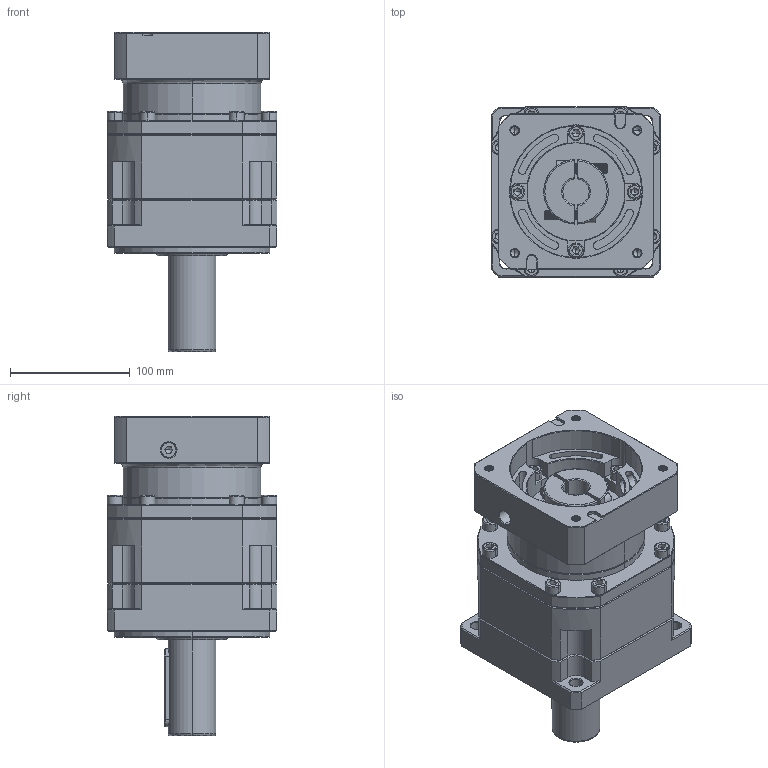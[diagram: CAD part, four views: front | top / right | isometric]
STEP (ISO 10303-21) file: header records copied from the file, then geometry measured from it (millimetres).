
FILE_DESCRIPTION (( 'STEP AP214' ), '1' );
FILE_NAME ('ZB142A-D40-L1-P2-22-110-145-M8.step', '2023-09-01T11:40:58', ( '' ), ( '' ), 'SwSTEP 2.0', 'SolidWorks 2016', '' );
FILE_SCHEMA (( 'AUTOMOTIVE_DESIGN' ));
Length unit declared in the file: millimetre
Products named in the file (1): ZB142A-D40-L1-P2-22-110-145-M8
Bounding box: 142 x 142 x 266.8 mm (x, y, z)
Volume: 2771700.9 mm3; surface area: 286182.5 mm2
Topology: 7 solids, 7 shells, 2603 faces, 6901 edges, 4412 vertices
Faces by surface type: plane 1233, cylinder 518, bspline 410, cone 386, torus 56
Entity records: 145159 total; most frequent: CARTESIAN_POINT 55307, ORIENTED_EDGE 13694, DIRECTION 11185, EDGE_CURVE 6847, VERTEX_POINT 4412, LINE 4301, VECTOR 4301, AXIS2_PLACEMENT_3D 3442
